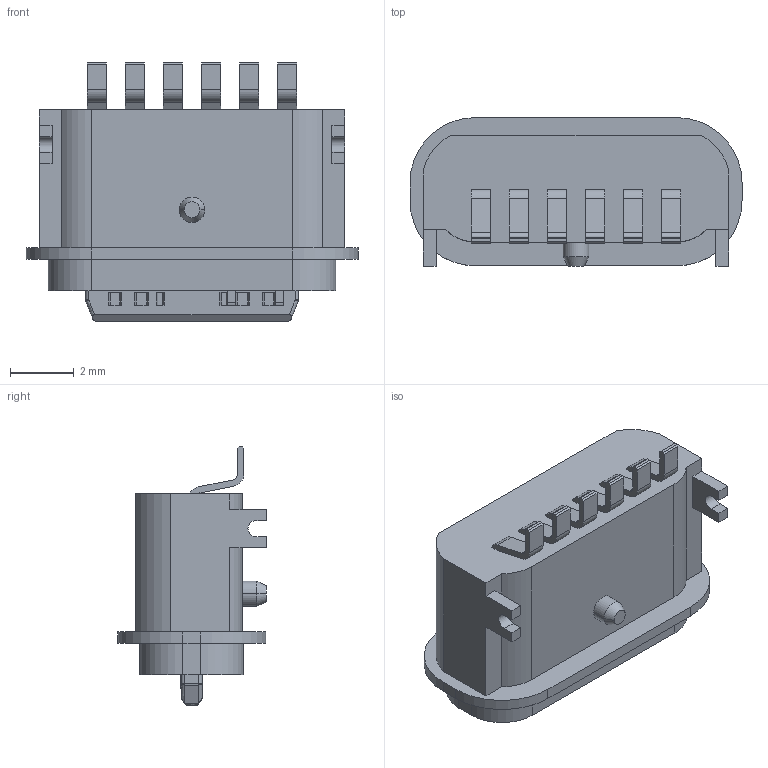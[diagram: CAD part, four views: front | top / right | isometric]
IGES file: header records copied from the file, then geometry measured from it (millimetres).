
Start section:  PTC IGES file: 006.igs
Global section: file name: 006.igs; native system: Creo Parametric by PTC Inc.; preprocessor: 2019080; author: Administrator; organization: Unknown; date: 20230420.165237; units: millimetre
Bounding box: 10.44 x 4.68 x 8.12 mm (x, y, z)
Surface area: 403 mm2 (no closed solid volume)
Topology: 0 solids, 0 shells, 462 faces, 2562 edges, 2554 vertices
Faces by surface type: bspline 360, revolution 102
